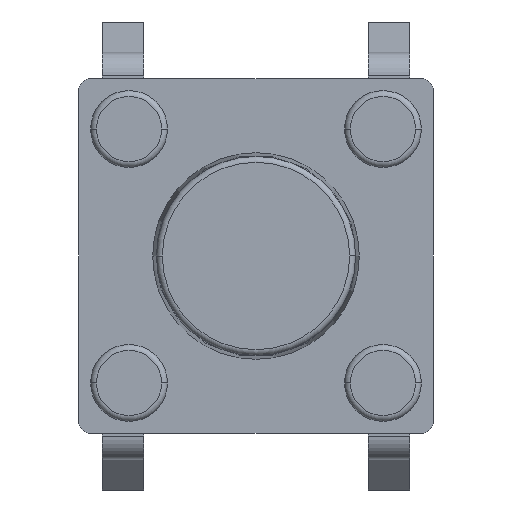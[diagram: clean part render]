
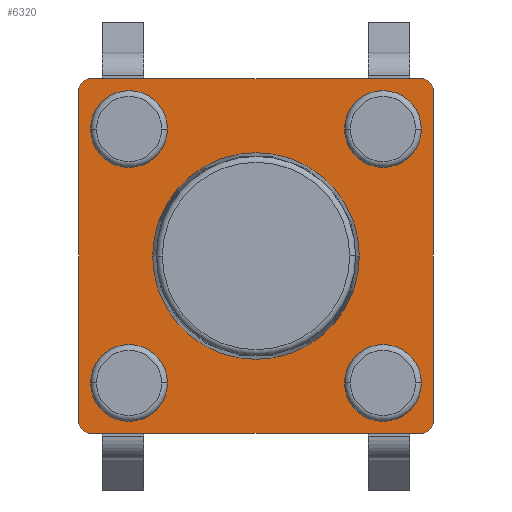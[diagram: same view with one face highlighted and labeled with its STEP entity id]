
A CAD part, front view. The second image highlights one B-rep face of the part: STEP entity #6320.
In plain terms, the highlighted planar face has unit normal (0, -1, 0).
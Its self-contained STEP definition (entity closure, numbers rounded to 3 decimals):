
#5965=CARTESIAN_POINT('',(-2.15,-0.3,-2.15));
#5966=DIRECTION('',(0.,-1.,0.));
#5967=DIRECTION('',(1.,0.,0.));
#5968=AXIS2_PLACEMENT_3D('',#5965,#5966,#5967);
#5970=CARTESIAN_POINT('',(-2.15,-0.3,-2.15));
#5971=DIRECTION('',(0.,-1.,0.));
#5972=DIRECTION('',(-1.,0.,0.));
#5973=AXIS2_PLACEMENT_3D('',#5970,#5971,#5972);
#5975=CARTESIAN_POINT('',(2.15,-0.3,-2.15));
#5976=DIRECTION('',(0.,-1.,0.));
#5977=DIRECTION('',(1.,0.,0.));
#5978=AXIS2_PLACEMENT_3D('',#5975,#5976,#5977);
#5980=CARTESIAN_POINT('',(2.15,-0.3,-2.15));
#5981=DIRECTION('',(0.,-1.,0.));
#5982=DIRECTION('',(-1.,0.,0.));
#5983=AXIS2_PLACEMENT_3D('',#5980,#5981,#5982);
#5985=CARTESIAN_POINT('',(2.15,-0.3,2.15));
#5986=DIRECTION('',(0.,-1.,0.));
#5987=DIRECTION('',(1.,0.,0.));
#5988=AXIS2_PLACEMENT_3D('',#5985,#5986,#5987);
#5990=CARTESIAN_POINT('',(2.15,-0.3,2.15));
#5991=DIRECTION('',(0.,-1.,0.));
#5992=DIRECTION('',(-1.,0.,0.));
#5993=AXIS2_PLACEMENT_3D('',#5990,#5991,#5992);
#5995=CARTESIAN_POINT('',(-2.15,-0.3,2.15));
#5996=DIRECTION('',(0.,-1.,0.));
#5997=DIRECTION('',(1.,0.,0.));
#5998=AXIS2_PLACEMENT_3D('',#5995,#5996,#5997);
#6000=CARTESIAN_POINT('',(-2.15,-0.3,2.15));
#6001=DIRECTION('',(0.,-1.,0.));
#6002=DIRECTION('',(-1.,0.,0.));
#6003=AXIS2_PLACEMENT_3D('',#6000,#6001,#6002);
#6005=CARTESIAN_POINT('',(0.,-0.3,0.));
#6006=DIRECTION('',(0.,-1.,0.));
#6007=DIRECTION('',(1.,0.,0.));
#6008=AXIS2_PLACEMENT_3D('',#6005,#6006,#6007);
#6010=CARTESIAN_POINT('',(0.,-0.3,0.));
#6011=DIRECTION('',(0.,-1.,0.));
#6012=DIRECTION('',(-1.,0.,0.));
#6013=AXIS2_PLACEMENT_3D('',#6010,#6011,#6012);
#6015=CARTESIAN_POINT('',(-2.8,-0.3,-2.8));
#6016=DIRECTION('',(0.,-1.,0.));
#6017=DIRECTION('',(-1.,0.,0.));
#6018=AXIS2_PLACEMENT_3D('',#6015,#6016,#6017);
#6020=DIRECTION('',(0.,0.,1.));
#6021=VECTOR('',#6020,5.6);
#6022=CARTESIAN_POINT('',(-3.,-0.3,-2.8));
#6023=LINE('',#6022,#6021);
#6024=CARTESIAN_POINT('',(-2.8,-0.3,2.8));
#6025=DIRECTION('',(0.,-1.,0.));
#6026=DIRECTION('',(0.,0.,1.));
#6027=AXIS2_PLACEMENT_3D('',#6024,#6025,#6026);
#6029=DIRECTION('',(1.,0.,0.));
#6030=VECTOR('',#6029,5.6);
#6031=CARTESIAN_POINT('',(-2.8,-0.3,3.));
#6032=LINE('',#6031,#6030);
#6033=CARTESIAN_POINT('',(2.8,-0.3,2.8));
#6034=DIRECTION('',(0.,-1.,0.));
#6035=DIRECTION('',(1.,0.,0.));
#6036=AXIS2_PLACEMENT_3D('',#6033,#6034,#6035);
#6038=DIRECTION('',(0.,0.,-1.));
#6039=VECTOR('',#6038,5.6);
#6040=CARTESIAN_POINT('',(3.,-0.3,2.8));
#6041=LINE('',#6040,#6039);
#6042=CARTESIAN_POINT('',(2.8,-0.3,-2.8));
#6043=DIRECTION('',(0.,-1.,0.));
#6044=DIRECTION('',(0.,0.,-1.));
#6045=AXIS2_PLACEMENT_3D('',#6042,#6043,#6044);
#6047=DIRECTION('',(-1.,0.,0.));
#6048=VECTOR('',#6047,5.6);
#6049=CARTESIAN_POINT('',(2.8,-0.3,-3.));
#6050=LINE('',#6049,#6048);
#6131=CARTESIAN_POINT('',(-1.75,-0.3,-2.15));
#6132=CARTESIAN_POINT('',(-2.55,-0.3,-2.15));
#6133=VERTEX_POINT('',#6131);
#6134=VERTEX_POINT('',#6132);
#6135=CARTESIAN_POINT('',(2.55,-0.3,-2.15));
#6136=CARTESIAN_POINT('',(1.75,-0.3,-2.15));
#6137=VERTEX_POINT('',#6135);
#6138=VERTEX_POINT('',#6136);
#6139=CARTESIAN_POINT('',(2.55,-0.3,2.15));
#6140=CARTESIAN_POINT('',(1.75,-0.3,2.15));
#6141=VERTEX_POINT('',#6139);
#6142=VERTEX_POINT('',#6140);
#6143=CARTESIAN_POINT('',(-1.75,-0.3,2.15));
#6144=CARTESIAN_POINT('',(-2.55,-0.3,2.15));
#6145=VERTEX_POINT('',#6143);
#6146=VERTEX_POINT('',#6144);
#6151=CARTESIAN_POINT('',(1.75,-0.3,0.));
#6152=CARTESIAN_POINT('',(-1.75,-0.3,0.));
#6153=VERTEX_POINT('',#6151);
#6154=VERTEX_POINT('',#6152);
#6159=CARTESIAN_POINT('',(-3.,-0.3,-2.8));
#6160=VERTEX_POINT('',#6159);
#6161=CARTESIAN_POINT('',(-2.8,-0.3,-3.));
#6162=VERTEX_POINT('',#6161);
#6167=CARTESIAN_POINT('',(-2.8,-0.3,3.));
#6168=VERTEX_POINT('',#6167);
#6169=CARTESIAN_POINT('',(-3.,-0.3,2.8));
#6170=VERTEX_POINT('',#6169);
#6175=CARTESIAN_POINT('',(3.,-0.3,2.8));
#6176=VERTEX_POINT('',#6175);
#6177=CARTESIAN_POINT('',(2.8,-0.3,3.));
#6178=VERTEX_POINT('',#6177);
#6183=CARTESIAN_POINT('',(2.8,-0.3,-3.));
#6184=VERTEX_POINT('',#6183);
#6185=CARTESIAN_POINT('',(3.,-0.3,-2.8));
#6186=VERTEX_POINT('',#6185);
#6269=CARTESIAN_POINT('',(0.,-0.3,0.));
#6270=DIRECTION('',(0.,1.,0.));
#6271=DIRECTION('',(1.,0.,0.));
#6272=AXIS2_PLACEMENT_3D('',#6269,#6270,#6271);
#6273=PLANE('',#6272);
#6275=ORIENTED_EDGE('',*,*,#6274,.F.);
#6277=ORIENTED_EDGE('',*,*,#6276,.T.);
#6279=ORIENTED_EDGE('',*,*,#6278,.F.);
#6281=ORIENTED_EDGE('',*,*,#6280,.T.);
#6283=ORIENTED_EDGE('',*,*,#6282,.F.);
#6285=ORIENTED_EDGE('',*,*,#6284,.T.);
#6287=ORIENTED_EDGE('',*,*,#6286,.F.);
#6289=ORIENTED_EDGE('',*,*,#6288,.T.);
#6290=EDGE_LOOP('',(#6275,#6277,#6279,#6281,#6283,#6285,#6287,#6289));
#6291=FACE_OUTER_BOUND('',#6290,.F.);
#6293=ORIENTED_EDGE('',*,*,#6292,.T.);
#6295=ORIENTED_EDGE('',*,*,#6294,.T.);
#6296=EDGE_LOOP('',(#6293,#6295));
#6297=FACE_BOUND('',#6296,.F.);
#6299=ORIENTED_EDGE('',*,*,#6298,.T.);
#6301=ORIENTED_EDGE('',*,*,#6300,.T.);
#6302=EDGE_LOOP('',(#6299,#6301));
#6303=FACE_BOUND('',#6302,.F.);
#6305=ORIENTED_EDGE('',*,*,#6304,.T.);
#6307=ORIENTED_EDGE('',*,*,#6306,.T.);
#6308=EDGE_LOOP('',(#6305,#6307));
#6309=FACE_BOUND('',#6308,.F.);
#6311=ORIENTED_EDGE('',*,*,#6310,.T.);
#6313=ORIENTED_EDGE('',*,*,#6312,.T.);
#6314=EDGE_LOOP('',(#6311,#6313));
#6315=FACE_BOUND('',#6314,.F.);
#6316=ORIENTED_EDGE('',*,*,#6249,.T.);
#6317=ORIENTED_EDGE('',*,*,#6263,.T.);
#6318=EDGE_LOOP('',(#6316,#6317));
#6319=FACE_BOUND('',#6318,.F.);
#5969=CIRCLE('',#5968,0.4);
#5974=CIRCLE('',#5973,0.4);
#5979=CIRCLE('',#5978,0.4);
#5984=CIRCLE('',#5983,0.4);
#5989=CIRCLE('',#5988,0.4);
#5994=CIRCLE('',#5993,0.4);
#5999=CIRCLE('',#5998,0.4);
#6004=CIRCLE('',#6003,0.4);
#6009=CIRCLE('',#6008,1.75);
#6014=CIRCLE('',#6013,1.75);
#6019=CIRCLE('',#6018,0.2);
#6028=CIRCLE('',#6027,0.2);
#6037=CIRCLE('',#6036,0.2);
#6046=CIRCLE('',#6045,0.2);
#6249=EDGE_CURVE('',#6133,#6134,#5969,.T.);
#6263=EDGE_CURVE('',#6134,#6133,#5974,.T.);
#6274=EDGE_CURVE('',#6160,#6162,#6019,.T.);
#6276=EDGE_CURVE('',#6160,#6170,#6023,.T.);
#6278=EDGE_CURVE('',#6168,#6170,#6028,.T.);
#6280=EDGE_CURVE('',#6168,#6178,#6032,.T.);
#6282=EDGE_CURVE('',#6176,#6178,#6037,.T.);
#6284=EDGE_CURVE('',#6176,#6186,#6041,.T.);
#6286=EDGE_CURVE('',#6184,#6186,#6046,.T.);
#6288=EDGE_CURVE('',#6184,#6162,#6050,.T.);
#6292=EDGE_CURVE('',#6137,#6138,#5979,.T.);
#6294=EDGE_CURVE('',#6138,#6137,#5984,.T.);
#6298=EDGE_CURVE('',#6141,#6142,#5989,.T.);
#6300=EDGE_CURVE('',#6142,#6141,#5994,.T.);
#6304=EDGE_CURVE('',#6145,#6146,#5999,.T.);
#6306=EDGE_CURVE('',#6146,#6145,#6004,.T.);
#6310=EDGE_CURVE('',#6153,#6154,#6009,.T.);
#6312=EDGE_CURVE('',#6154,#6153,#6014,.T.);
#6320=ADVANCED_FACE('',(#6291,#6297,#6303,#6309,#6315,#6319),#6273,.F.);
